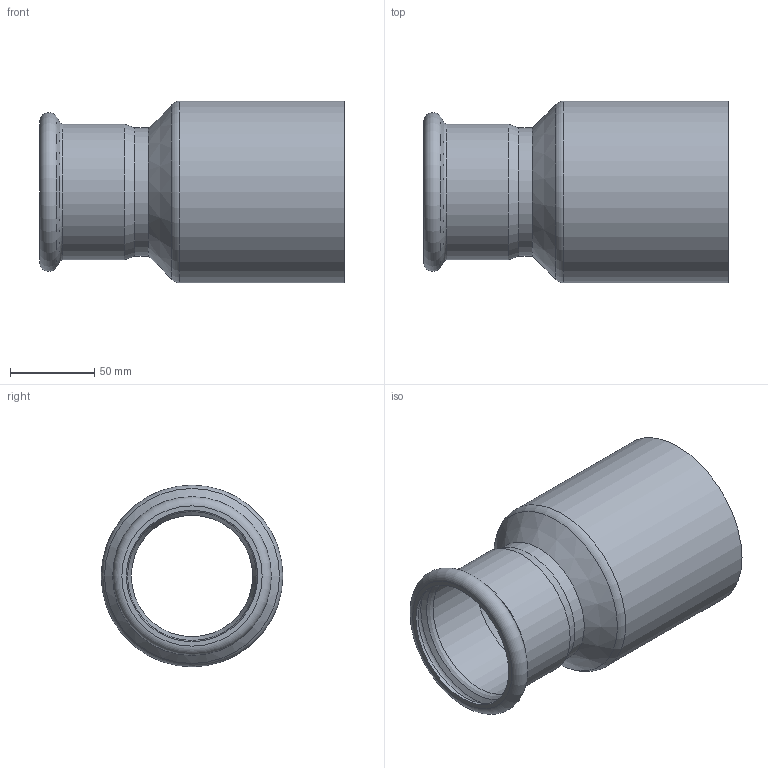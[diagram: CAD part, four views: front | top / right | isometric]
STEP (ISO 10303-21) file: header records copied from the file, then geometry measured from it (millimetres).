
FILE_DESCRIPTION((''),'2;1');
FILE_NAME('G:\Nirosan-Schmiedefeld\Technics\CAD\Bauteile VA\108\6924310876(1).stp','2009-05-08T09:54:02',('herberg'),(''),'Autodesk Inventor 2009','Autodesk Inventor 2009','');
FILE_SCHEMA(('AUTOMOTIVE_DESIGN { 1 0 10303 214 1 1 1 1 }'));
Length unit declared in the file: millimetre
Products named in the file (3): 6924310876(1); R_6924310876(0); HM_6924376(1)
Assembly tree (2 placements, depth 2):
  6924310876(1)
    R_6924310876(0)
    HM_6924376(1)
Bounding box: 181 x 108 x 108 mm (x, y, z)
Volume: 115864 mm3; surface area: 117945.6 mm2
Topology: 2 solids, 2 shells, 25 faces, 46 edges, 26 vertices
Faces by surface type: cylinder 8, cone 6, plane 5, bspline 3, torus 3
Full cylindrical faces by diameter (mm): 72.1 x2, 76.1 x1, 76.6 x1, 78 x1, 80.6 x1, 104 x1, 108 x1
Entity records: 721 total; most frequent: CARTESIAN_POINT 212, DIRECTION 104, AXIS2_PLACEMENT_3D 52, ORIENTED_EDGE 50, EDGE_LOOP 50, VERTEX_POINT 25, CIRCLE 25, EDGE_CURVE 25
